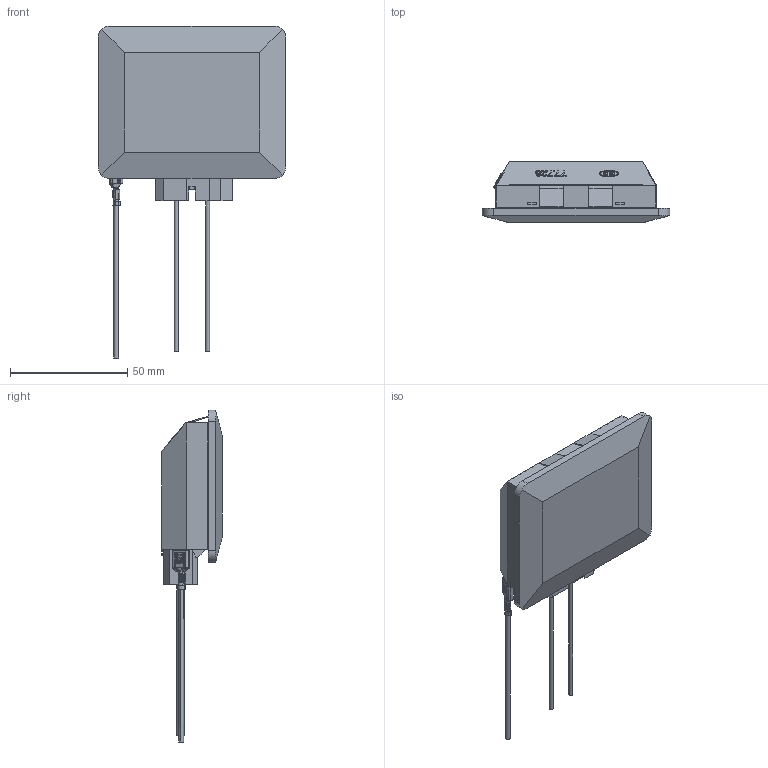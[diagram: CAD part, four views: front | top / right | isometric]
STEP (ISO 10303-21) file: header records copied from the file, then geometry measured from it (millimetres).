
FILE_DESCRIPTION(('CAx-IF Rec.Pracs.---Model Styling and Organization---1.2---2011-12-15','CAx-IF Rec.Pracs.---Geometric and Assembly Validation Properties---4.1---2014-06-16','CAx-IF Rec.Pracs.---PMI Polyline Presentation---2.0---2013-05-24'),'2;1');
FILE_NAME('01KYA65Y03.stp','2021-07-26T07:49:28+02:00',(''),(''),'STEP Interface 4.4 by CT CoreTechnologie','3D_Evolution4.4 by CT CoreTechnologie','');
FILE_SCHEMA(('AP203_CONFIGURATION_CONTROLLED_3D_DESIGN_OF_MECHANICAL_PARTS_AND_ASSEMBLIES_MIM_LF'));
Length unit declared in the file: millimetre
Products named in the file (6): 01KYA65Y03; 01K-A64-05; 01C-20L-0F; 01K-A34-03; 00C-J03-05; 00Z-Z0H-03
Assembly tree (5 placements, depth 2):
  01KYA65Y03
    01K-A64-05
    01C-20L-0F
    01K-A34-03
    00C-J03-05
    00Z-Z0H-03
Bounding box: 80 x 26 x 141.53 mm (x, y, z)
Volume: 43613.1 mm3; surface area: 41339.8 mm2
Topology: 6 solids, 6 shells, 980 faces, 2582 edges, 1650 vertices
Faces by surface type: plane 596, cylinder 258, bspline 126
Entity records: 87629 total; most frequent: CARTESIAN_POINT 12298, PROPERTY_DEFINITION 7498, ORIENTED_EDGE 5140, DIRECTION 4879, SHAPE_REPRESENTATION 3752, REPRESENTATION 3752, GENERAL_PROPERTY 3752, PROPERTY_DEFINITION_REPRESENTATION 3752
